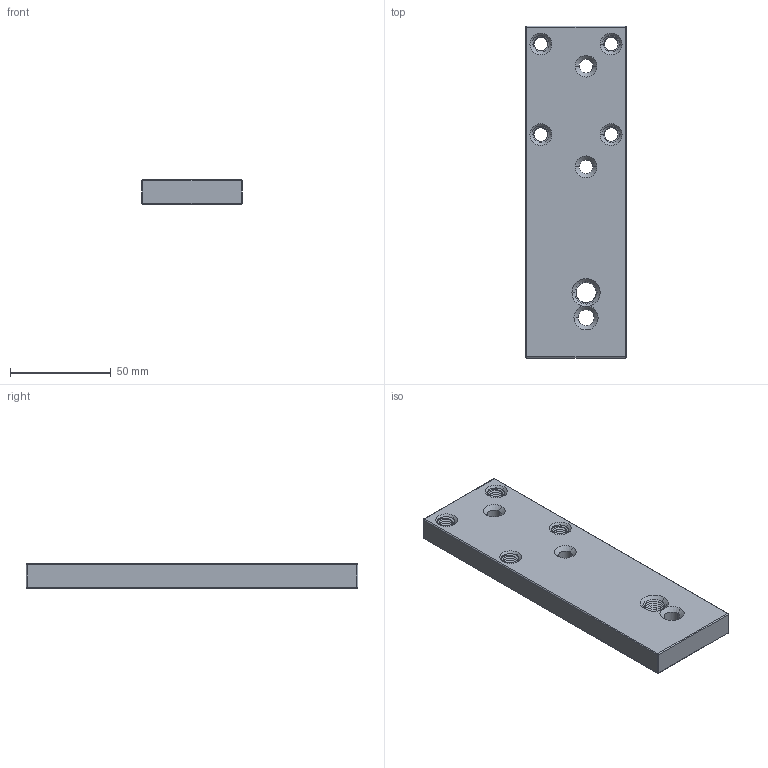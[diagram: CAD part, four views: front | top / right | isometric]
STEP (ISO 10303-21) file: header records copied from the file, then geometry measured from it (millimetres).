
FILE_DESCRIPTION (( 'STEP AP203' ), '1' );
FILE_NAME ('106-CE-CCB-4040.STEP', '2015-07-09T08:39:55', ( '' ), ( '' ), 'SwSTEP 2.0', 'SolidWorks 2013', '' );
FILE_SCHEMA (( 'CONFIG_CONTROL_DESIGN' ));
Length unit declared in the file: millimetre
Products named in the file (1): 106-CE-CCB-4040
Bounding box: 50 x 165 x 12 mm (x, y, z)
Volume: 93263.9 mm3; surface area: 24196.2 mm2
Topology: 1 solids, 1 shells, 155 faces, 432 edges, 269 vertices
Faces by surface type: cylinder 88, cone 41, bspline 10, sphere 8, plane 6, torus 2
Entity records: 11180 total; most frequent: CARTESIAN_POINT 7660, ORIENTED_EDGE 848, DIRECTION 606, EDGE_CURVE 424, VERTEX_POINT 269, AXIS2_PLACEMENT_3D 235, EDGE_LOOP 169, FACE_OUTER_BOUND 155
